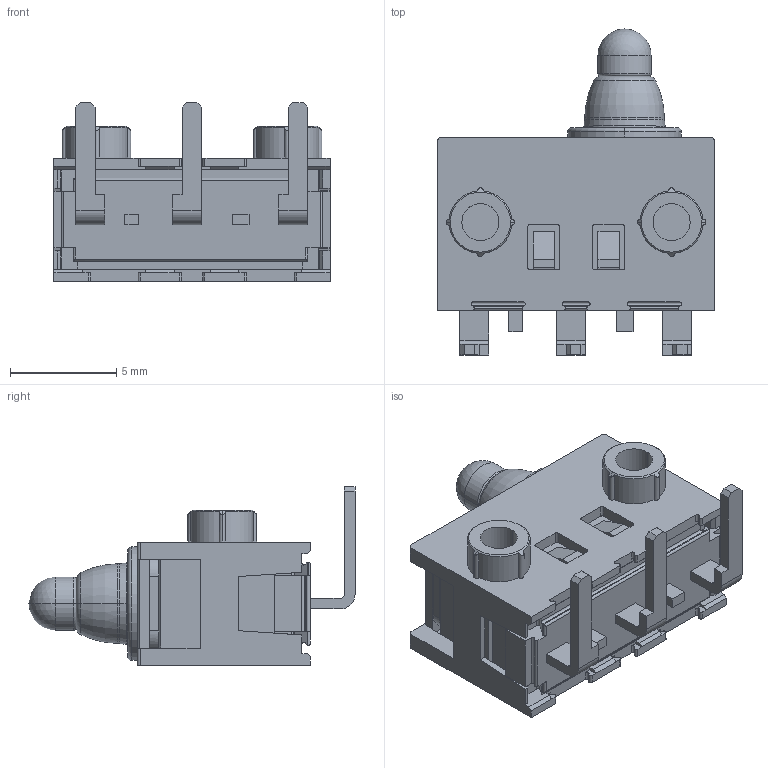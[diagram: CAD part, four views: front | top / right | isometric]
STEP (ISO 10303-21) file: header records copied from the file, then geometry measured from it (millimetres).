
FILE_DESCRIPTION (( 'STEP AP214' ), '1' );
FILE_NAME ('SPVQ380800.STEP', '2011-03-19T08:02:55', ( '' ), ( '' ), 'SwSTEP 2.0', 'SolidWorks 2007', '' );
FILE_SCHEMA (( 'AUTOMOTIVE_DESIGN' ));
Length unit declared in the file: millimetre
Products named in the file (1): SPVQ380800
Bounding box: 13 x 15.35 x 8.4 mm (x, y, z)
Volume: 625.8 mm3; surface area: 1092.6 mm2
Topology: 1 solids, 1 shells, 404 faces, 1137 edges, 738 vertices
Faces by surface type: plane 248, cylinder 132, torus 14, cone 8, sphere 2
Entity records: 16959 total; most frequent: CARTESIAN_POINT 2425, ORIENTED_EDGE 2266, DIRECTION 2180, EDGE_CURVE 1133, VECTOR 822, LINE 822, VERTEX_POINT 736, AXIS2_PLACEMENT_3D 679
